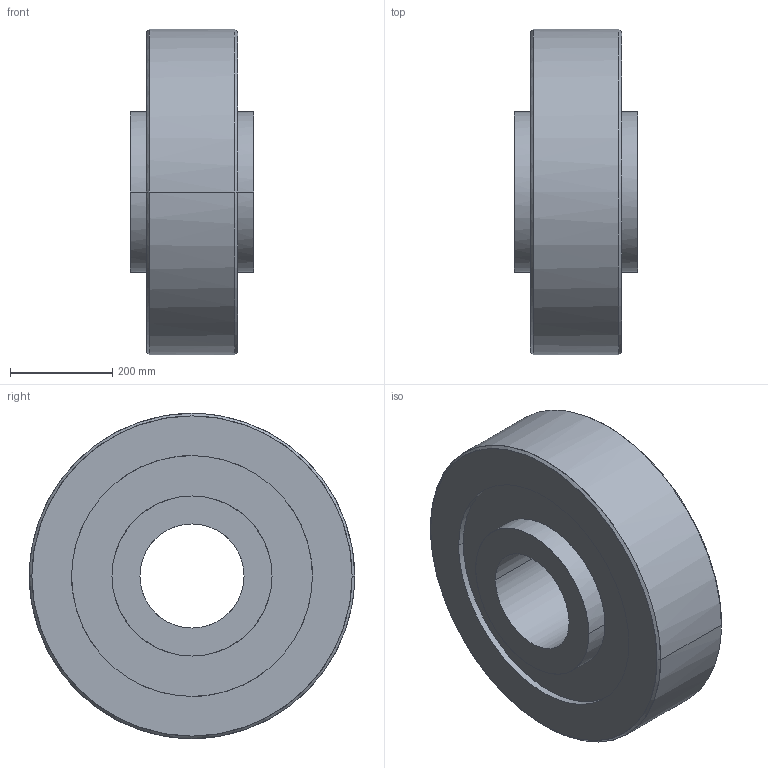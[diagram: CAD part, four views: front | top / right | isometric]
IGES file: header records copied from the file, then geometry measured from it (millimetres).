
Global section: native system: Kubotek KeyCreator; preprocessor: KCM Version 1.1.1442.0; author: KeyCreator User; organization: Self; date: 20170713.014953; units: inch
Bounding box: 241.3 x 635 x 635 mm (x, y, z)
Surface area: 1190519.6 mm2 (no closed solid volume)
Topology: 0 solids, 0 shells, 22 faces, 144 edges, 144 vertices
Faces by surface type: bspline 22
